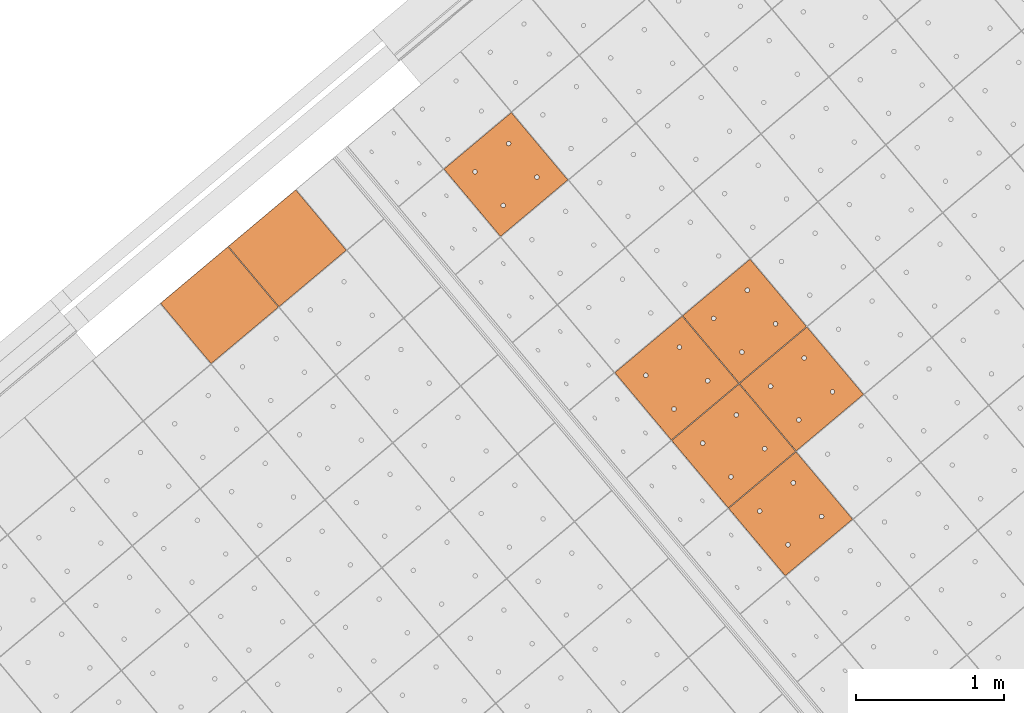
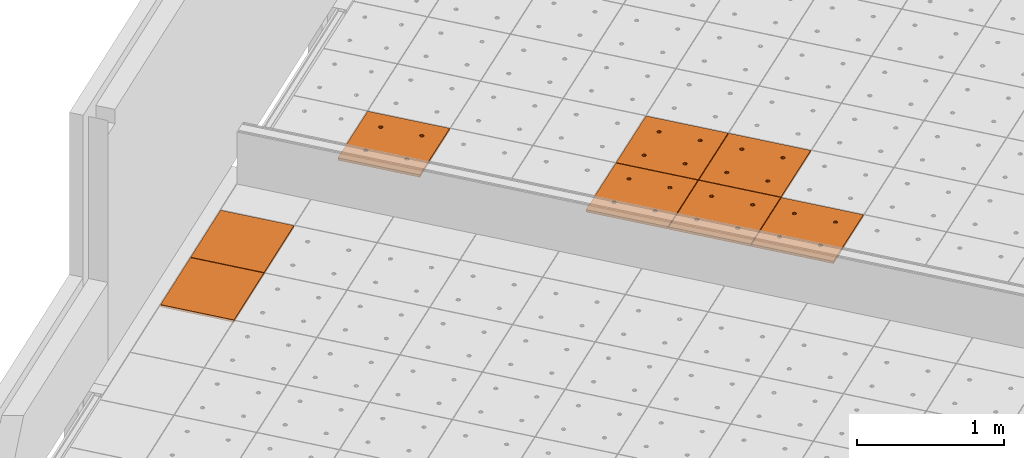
# One storey, part 160 of 338: 8 proxies, 2 elements without a shape of their own.
"""IFC2X3 building model written with IfcOpenShell, lengths in millimetres."""

from ifc_helpers import new_model, entity, si_unit, converted_unit, derived_unit, money_unit, direction, frame, origin_with_axes, place, context, subcontext, project, spatial, faceted_brep, source, transform, mapped, material, type_object, type_shapes, element, aggregate, save


model = new_model("IFC2X3")

# Units and contexts
model_context = context("Model", 3, precision=0.01, world=origin_with_axes(), true_north=direction((0.0, 1.0)))
plan_context = context("Plan", 3, precision=0.01, world=origin_with_axes(), true_north=direction((0.0, 1.0)))
body_context = subcontext(model_context, "Body", "Model", "MODEL_VIEW")
ifc_project = project(units=[si_unit("LENGTHUNIT", "METRE", prefix="MILLI"), si_unit("AREAUNIT", "SQUARE_METRE"), si_unit("VOLUMEUNIT", "CUBIC_METRE"), converted_unit("PLANEANGLEUNIT", "DEGREE", entity("IfcPlaneAngleMeasure", 0.0174532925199), si_unit("PLANEANGLEUNIT", "RADIAN"), dimensions=[0, 0, 0, 0, 0, 0, 0]), money_unit("EUR"), converted_unit("TIMEUNIT", "Year", entity("IfcTimeMeasure", 31556926.0), si_unit("TIMEUNIT", "SECOND"), dimensions=[0, 0, 1, 0, 0, 0, 0]), si_unit("MASSUNIT", "GRAM", prefix="KILO"), si_unit("THERMODYNAMICTEMPERATUREUNIT", "DEGREE_CELSIUS"), si_unit("LUMINOUSINTENSITYUNIT", "LUMEN"), si_unit("ENERGYUNIT", "JOULE", prefix="MEGA"), derived_unit("THERMALCONDUCTANCEUNIT", [(si_unit("POWERUNIT", "WATT"), 1), (si_unit("LENGTHUNIT", "METRE"), -1), (si_unit("THERMODYNAMICTEMPERATUREUNIT", "KELVIN"), -1)]), derived_unit("SPECIFICHEATCAPACITYUNIT", [(si_unit("ENERGYUNIT", "JOULE"), 1), (si_unit("MASSUNIT", "GRAM", prefix="KILO"), -1), (si_unit("THERMODYNAMICTEMPERATUREUNIT", "KELVIN"), -1)]), derived_unit("MASSDENSITYUNIT", [(si_unit("MASSUNIT", "GRAM", prefix="KILO"), 1), (si_unit("VOLUMEUNIT", "CUBIC_METRE"), -1)])], contexts=[model_context, plan_context])

# Site, building, storey
site_placement = place(None, origin_with_axes())
site = spatial("IfcSite", under=ifc_project, at=site_placement, Name="Fortuinstraat Woensdrecht", CompositionType="ELEMENT")
building_placement = place(site_placement, origin_with_axes())
building = spatial("IfcBuilding", under=site, at=building_placement, Name="IKC Fortuna", CompositionType="ELEMENT")
storey_placement = place(building_placement, origin_with_axes())
storey = spatial("IfcBuildingStorey", under=building, at=storey_placement, Name="00 begane grond", CompositionType="ELEMENT", Elevation=0.0)

# Covering, proxies
covering_type = type_object("IfcCoveringType", Name="Curtain Wall Type", PredefinedType="CEILING")
covering_1_placement = place(storey_placement, frame((9775.85169731, -1002.28242867, 4660.0), z_axis=(0.0, 0.0, 1.0), x_axis=(1.0, 0.0, 0.0)))
covering_1 = element("IfcCovering", 1, at=covering_1_placement, inside=storey, type_object=covering_type, Name="45_Plafondafwerking_P01", PredefinedType="CEILING")
ifc_material = material(Name="Gipsplaat")
building_element_proxy_type_1 = type_object("IfcBuildingElementProxyType", Name="600 x 538 x 20", PredefinedType="NOTDEFINED")
shared_shape_1 = source(origin_with_axes(), body_context, "Body", "Brep", [
    faceted_brep([(2.50000143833, 64.9091281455, -10.0), (597.499987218, 64.9091323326, -10.0), (597.499987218, 64.9091323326, 10.0), (2.50000143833, 64.9091281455, 10.0), (2.49999424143, 597.500000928, -10.0), (597.500006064, 597.499998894, -10.0), (597.500006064, 597.499998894, 10.0), (2.49999424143, 597.500000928, 10.0)], [[[0, 1, 2, 3]], [[0, 4, 5, 1]], [[1, 5, 6, 2]], [[3, 2, 6, 7]], [[4, 0, 3, 7]], [[5, 4, 7, 6]]]),
])
type_shapes(building_element_proxy_type_1, [shared_shape_1])
proxy_1_placement = place(covering_1_placement, frame((-4681.96817474, 4646.31550231, 0.0), z_axis=(0.0, 0.0, 1.0), x_axis=(1.0, 0.0, 0.0)))
proxy_1 = element("IfcBuildingElementProxy", 2, at=proxy_1_placement, type_object=building_element_proxy_type_1, material=ifc_material, Name="__600x636 Rockfon Krios", context=body_context, shape_type="MappedRepresentation", body=[
    mapped(shared_shape_1, transform((16.9190277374, 446.553705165, 0.0), x_axis=(-0.766044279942, -0.642787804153, 0.0), y_axis=(0.642787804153, -0.766044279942, 0.0), z_axis=(0.0, 0.0, 1.0))),
])
proxy_2_placement = place(covering_1_placement, frame((-4222.34160678, 5031.9881848, 0.0), z_axis=(0.0, 0.0, 1.0), x_axis=(1.0, 0.0, 0.0)))
proxy_2 = element("IfcBuildingElementProxy", 3, at=proxy_2_placement, type_object=building_element_proxy_type_1, material=ifc_material, Name="__600x690 Rockfon Krios", context=body_context, shape_type="MappedRepresentation", body=[
    mapped(shared_shape_1, transform((16.9190277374, 446.553705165, 0.0), x_axis=(-0.766044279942, -0.642787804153, 0.0), y_axis=(0.642787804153, -0.766044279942, 0.0), z_axis=(0.0, 0.0, 1.0))),
])
aggregate(covering_1, [proxy_1, proxy_2])

covering_2_placement = place(storey_placement, frame((15863.124366, 4456.31398675, 4619.99995334), z_axis=(0.0, 0.0, 1.0), x_axis=(1.0, 0.0, 0.0)))
covering_2 = element("IfcCovering", 4, at=covering_2_placement, inside=storey, type_object=covering_type, Name="45_Plafondafwerking_P01", PredefinedType="CEILING")
building_element_proxy_type_2 = type_object("IfcBuildingElementProxyType", Name="Main Panel 600 x 600 x 20", PredefinedType="NOTDEFINED")
shared_shape_2 = source(origin_with_axes(), body_context, "Body", "Brep", [
    faceted_brep([(2.50000262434, 2.50000269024, -10.0), (299.999999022, 2.50000269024, -10.0), (299.999999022, 2.50000269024, 10.0), (2.50000262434, 2.50000269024, 10.0), (2.50000262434, 300.000003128, -10.0), (2.50000262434, 597.500003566, -10.0), (299.999999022, 597.500003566, -10.0), (597.499995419, 597.500003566, -10.0), (597.499995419, 300.000003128, -10.0), (597.499995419, 2.50000269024, -10.0), (166.250000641, 450.062333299, -10.0), (165.794233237, 452.647118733, -10.0), (164.896546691, 455.113492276, -10.0), (163.584216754, 457.386514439, -10.0), (161.897117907, 459.397120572, -10.0), (159.886511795, 461.084219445, -10.0), (157.613489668, 462.396549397, -10.0), (155.147116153, 463.294235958, -10.0), (152.56233076, 463.750003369, -10.0), (149.937670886, 463.750003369, -10.0), (147.352885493, 463.294235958, -10.0), (144.886511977, 462.396549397, -10.0), (142.61348985, 461.084219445, -10.0), (140.602883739, 459.397120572, -10.0), (138.915784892, 457.386514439, -10.0), (137.603454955, 455.113492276, -10.0), (136.705768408, 452.647118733, -10.0), (136.250001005, 450.062333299, -10.0), (136.250001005, 448.750003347, -10.0), (136.250001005, 447.437673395, -10.0), (136.705768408, 444.852887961, -10.0), (137.603454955, 442.386514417, -10.0), (138.915784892, 440.113492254, -10.0), (140.602883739, 438.102886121, -10.0), (142.61348985, 436.415787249, -10.0), (144.886511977, 435.103457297, -10.0), (147.352885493, 434.205770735, -10.0), (149.937670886, 433.750003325, -10.0), (152.56233076, 433.750003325, -10.0), (155.147116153, 434.205770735, -10.0), (157.613489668, 435.103457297, -10.0), (159.886511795, 436.415787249, -10.0), (161.897117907, 438.102886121, -10.0), (163.584216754, 440.113492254, -10.0), (164.896546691, 442.386514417, -10.0), (165.794233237, 444.852887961, -10.0), (166.250000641, 447.437673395, -10.0), (463.749997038, 450.062333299, -10.0), (463.294229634, 452.647118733, -10.0), (462.396543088, 455.113492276, -10.0), (461.084213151, 457.386514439, -10.0), (459.397114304, 459.397120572, -10.0), (457.386508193, 461.084219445, -10.0), (455.113486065, 462.396549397, -10.0), (452.64711255, 463.294235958, -10.0), (450.062327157, 463.750003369, -10.0), (447.437667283, 463.750003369, -10.0), (444.85288189, 463.294235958, -10.0), (442.386508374, 462.396549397, -10.0), (440.113486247, 461.084219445, -10.0), (438.102880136, 459.397120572, -10.0), (436.415781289, 457.386514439, -10.0), (435.103451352, 455.113492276, -10.0), (434.205764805, 452.647118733, -10.0), (433.749997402, 450.062333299, -10.0), (433.749997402, 448.750003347, -10.0), (433.749997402, 447.437673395, -10.0), (434.205764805, 444.852887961, -10.0), (435.103451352, 442.386514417, -10.0), (436.415781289, 440.113492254, -10.0), (438.102880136, 438.102886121, -10.0), (440.113486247, 436.415787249, -10.0), (442.386508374, 435.103457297, -10.0), (444.85288189, 434.205770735, -10.0), (447.437667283, 433.750003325, -10.0), (450.062327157, 433.750003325, -10.0), (452.64711255, 434.205770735, -10.0), (455.113486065, 435.103457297, -10.0), (457.386508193, 436.415787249, -10.0), (459.397114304, 438.102886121, -10.0), (461.084213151, 440.113492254, -10.0), (462.396543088, 442.386514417, -10.0), (463.294229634, 444.852887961, -10.0), (463.749997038, 447.437673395, -10.0), (463.749997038, 152.562332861, -10.0), (463.294229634, 155.147118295, -10.0), (462.396543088, 157.613491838, -10.0), (461.084213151, 159.886514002, -10.0), (459.397114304, 161.897120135, -10.0), (457.386508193, 163.584219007, -10.0), (455.113486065, 164.896548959, -10.0), (452.64711255, 165.79423552, -10.0), (450.062327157, 166.250002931, -10.0), (447.437667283, 166.250002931, -10.0), (444.85288189, 165.79423552, -10.0), (442.386508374, 164.896548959, -10.0), (440.113486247, 163.584219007, -10.0), (438.102880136, 161.897120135, -10.0), (436.415781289, 159.886514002, -10.0), (435.103451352, 157.613491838, -10.0), (434.205764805, 155.147118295, -10.0), (433.749997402, 152.562332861, -10.0), (433.749997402, 151.250002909, -10.0), (433.749997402, 149.937672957, -10.0), (434.205764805, 147.352887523, -10.0), (435.103451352, 144.88651398, -10.0), (436.415781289, 142.613491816, -10.0), (438.102880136, 140.602885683, -10.0), (440.113486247, 138.915786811, -10.0), (442.386508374, 137.603456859, -10.0), (444.85288189, 136.705770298, -10.0), (447.437667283, 136.250002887, -10.0), (450.062327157, 136.250002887, -10.0), (452.64711255, 136.705770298, -10.0), (455.113486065, 137.603456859, -10.0), (457.386508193, 138.915786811, -10.0), (459.397114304, 140.602885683, -10.0), (461.084213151, 142.613491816, -10.0), (462.396543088, 144.88651398, -10.0), (463.294229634, 147.352887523, -10.0), (463.749997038, 149.937672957, -10.0), (166.250000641, 152.562332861, -10.0), (165.794233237, 155.147118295, -10.0), (164.896546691, 157.613491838, -10.0), (163.584216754, 159.886514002, -10.0), (161.897117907, 161.897120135, -10.0), (159.886511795, 163.584219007, -10.0), (157.613489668, 164.896548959, -10.0), (155.147116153, 165.79423552, -10.0), (152.56233076, 166.250002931, -10.0), (149.937670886, 166.250002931, -10.0), (147.352885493, 165.79423552, -10.0), (144.886511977, 164.896548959, -10.0), (142.61348985, 163.584219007, -10.0), (140.602883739, 161.897120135, -10.0), (138.915784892, 159.886514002, -10.0), (137.603454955, 157.613491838, -10.0), (136.705768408, 155.147118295, -10.0), (136.250001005, 152.562332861, -10.0), (136.250001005, 151.250002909, -10.0), (136.250001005, 149.937672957, -10.0), (136.705768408, 147.352887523, -10.0), (137.603454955, 144.88651398, -10.0), (138.915784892, 142.613491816, -10.0), (140.602883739, 140.602885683, -10.0), (142.61348985, 138.915786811, -10.0), (144.886511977, 137.603456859, -10.0), (147.352885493, 136.705770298, -10.0), (149.937670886, 136.250002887, -10.0), (152.56233076, 136.250002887, -10.0), (155.147116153, 136.705770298, -10.0), (157.613489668, 137.603456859, -10.0), (159.886511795, 138.915786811, -10.0), (161.897117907, 140.602885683, -10.0), (163.584216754, 142.613491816, -10.0), (164.896546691, 144.88651398, -10.0), (165.794233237, 147.352887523, -10.0), (166.250000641, 149.937672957, -10.0), (597.499995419, 2.50000269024, 10.0), (597.499995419, 300.000003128, 10.0), (597.499995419, 597.500003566, 10.0), (299.999999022, 597.500003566, 10.0), (2.50000262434, 597.500003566, 10.0), (2.50000262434, 300.000003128, 10.0), (166.250000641, 450.062333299, 10.0), (166.250000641, 447.437673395, 10.0), (165.794233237, 444.852887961, 10.0), (164.896546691, 442.386514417, 10.0), (163.584216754, 440.113492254, 10.0), (161.897117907, 438.102886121, 10.0), (159.886511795, 436.415787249, 10.0), (157.613489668, 435.103457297, 10.0), (155.147116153, 434.205770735, 10.0), (152.56233076, 433.750003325, 10.0), (149.937670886, 433.750003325, 10.0), (147.352885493, 434.205770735, 10.0), (144.886511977, 435.103457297, 10.0), (142.61348985, 436.415787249, 10.0), (140.602883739, 438.102886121, 10.0), (138.915784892, 440.113492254, 10.0), (137.603454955, 442.386514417, 10.0), (136.705768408, 444.852887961, 10.0), (136.250001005, 447.437673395, 10.0), (136.250001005, 448.750003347, 10.0), (136.250001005, 450.062333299, 10.0), (136.705768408, 452.647118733, 10.0), (137.603454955, 455.113492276, 10.0), (138.915784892, 457.386514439, 10.0), (140.602883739, 459.397120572, 10.0), (142.61348985, 461.084219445, 10.0), (144.886511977, 462.396549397, 10.0), (147.352885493, 463.294235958, 10.0), (149.937670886, 463.750003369, 10.0), (152.56233076, 463.750003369, 10.0), (155.147116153, 463.294235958, 10.0), (157.613489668, 462.396549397, 10.0), (159.886511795, 461.084219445, 10.0), (161.897117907, 459.397120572, 10.0), (163.584216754, 457.386514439, 10.0), (164.896546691, 455.113492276, 10.0), (165.794233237, 452.647118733, 10.0), (463.749997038, 450.062333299, 10.0), (463.749997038, 447.437673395, 10.0), (463.294229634, 444.852887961, 10.0), (462.396543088, 442.386514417, 10.0), (461.084213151, 440.113492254, 10.0), (459.397114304, 438.102886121, 10.0), (457.386508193, 436.415787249, 10.0), (455.113486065, 435.103457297, 10.0), (452.64711255, 434.205770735, 10.0), (450.062327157, 433.750003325, 10.0), (447.437667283, 433.750003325, 10.0), (444.85288189, 434.205770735, 10.0), (442.386508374, 435.103457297, 10.0), (440.113486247, 436.415787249, 10.0), (438.102880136, 438.102886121, 10.0), (436.415781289, 440.113492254, 10.0), (435.103451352, 442.386514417, 10.0), (434.205764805, 444.852887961, 10.0), (433.749997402, 447.437673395, 10.0), (433.749997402, 448.750003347, 10.0), (433.749997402, 450.062333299, 10.0), (434.205764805, 452.647118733, 10.0), (435.103451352, 455.113492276, 10.0), (436.415781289, 457.386514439, 10.0), (438.102880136, 459.397120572, 10.0), (440.113486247, 461.084219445, 10.0), (442.386508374, 462.396549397, 10.0), (444.85288189, 463.294235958, 10.0), (447.437667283, 463.750003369, 10.0), (450.062327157, 463.750003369, 10.0), (452.64711255, 463.294235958, 10.0), (455.113486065, 462.396549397, 10.0), (457.386508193, 461.084219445, 10.0), (459.397114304, 459.397120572, 10.0), (461.084213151, 457.386514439, 10.0), (462.396543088, 455.113492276, 10.0), (463.294229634, 452.647118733, 10.0), (463.749997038, 152.562332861, 10.0), (463.749997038, 149.937672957, 10.0), (463.294229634, 147.352887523, 10.0), (462.396543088, 144.88651398, 10.0), (461.084213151, 142.613491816, 10.0), (459.397114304, 140.602885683, 10.0), (457.386508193, 138.915786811, 10.0), (455.113486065, 137.603456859, 10.0), (452.64711255, 136.705770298, 10.0), (450.062327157, 136.250002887, 10.0), (447.437667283, 136.250002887, 10.0), (444.85288189, 136.705770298, 10.0), (442.386508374, 137.603456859, 10.0), (440.113486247, 138.915786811, 10.0), (438.102880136, 140.602885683, 10.0), (436.415781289, 142.613491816, 10.0), (435.103451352, 144.88651398, 10.0), (434.205764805, 147.352887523, 10.0), (433.749997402, 149.937672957, 10.0), (433.749997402, 151.250002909, 10.0), (433.749997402, 152.562332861, 10.0), (434.205764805, 155.147118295, 10.0), (435.103451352, 157.613491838, 10.0), (436.415781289, 159.886514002, 10.0), (438.102880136, 161.897120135, 10.0), (440.113486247, 163.584219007, 10.0), (442.386508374, 164.896548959, 10.0), (444.85288189, 165.79423552, 10.0), (447.437667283, 166.250002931, 10.0), (450.062327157, 166.250002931, 10.0), (452.64711255, 165.79423552, 10.0), (455.113486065, 164.896548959, 10.0), (457.386508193, 163.584219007, 10.0), (459.397114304, 161.897120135, 10.0), (461.084213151, 159.886514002, 10.0), (462.396543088, 157.613491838, 10.0), (463.294229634, 155.147118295, 10.0), (166.250000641, 152.562332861, 10.0), (166.250000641, 149.937672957, 10.0), (165.794233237, 147.352887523, 10.0), (164.896546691, 144.88651398, 10.0), (163.584216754, 142.613491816, 10.0), (161.897117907, 140.602885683, 10.0), (159.886511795, 138.915786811, 10.0), (157.613489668, 137.603456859, 10.0), (155.147116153, 136.705770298, 10.0), (152.56233076, 136.250002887, 10.0), (149.937670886, 136.250002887, 10.0), (147.352885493, 136.705770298, 10.0), (144.886511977, 137.603456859, 10.0), (142.61348985, 138.915786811, 10.0), (140.602883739, 140.602885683, 10.0), (138.915784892, 142.613491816, 10.0), (137.603454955, 144.88651398, 10.0), (136.705768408, 147.352887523, 10.0), (136.250001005, 149.937672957, 10.0), (136.250001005, 151.250002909, 10.0), (136.250001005, 152.562332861, 10.0), (136.705768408, 155.147118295, 10.0), (137.603454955, 157.613491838, 10.0), (138.915784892, 159.886514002, 10.0), (140.602883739, 161.897120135, 10.0), (142.61348985, 163.584219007, 10.0), (144.886511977, 164.896548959, 10.0), (147.352885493, 165.79423552, 10.0), (149.937670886, 166.250002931, 10.0), (152.56233076, 166.250002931, 10.0), (155.147116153, 165.79423552, 10.0), (157.613489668, 164.896548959, 10.0), (159.886511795, 163.584219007, 10.0), (161.897117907, 161.897120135, 10.0), (163.584216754, 159.886514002, 10.0), (164.896546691, 157.613491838, 10.0), (165.794233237, 155.147118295, 10.0)], [[[0, 1, 2, 3]], [[0, 4, 5, 6, 7, 8, 9, 1], [10, 11, 12, 13, 14, 15, 16, 17, 18, 19, 20, 21, 22, 23, 24, 25, 26, 27, 28, 29, 30, 31, 32, 33, 34, 35, 36, 37, 38, 39, 40, 41, 42, 43, 44, 45, 46], [47, 48, 49, 50, 51, 52, 53, 54, 55, 56, 57, 58, 59, 60, 61, 62, 63, 64, 65, 66, 67, 68, 69, 70, 71, 72, 73, 74, 75, 76, 77, 78, 79, 80, 81, 82, 83], [84, 85, 86, 87, 88, 89, 90, 91, 92, 93, 94, 95, 96, 97, 98, 99, 100, 101, 102, 103, 104, 105, 106, 107, 108, 109, 110, 111, 112, 113, 114, 115, 116, 117, 118, 119, 120], [121, 122, 123, 124, 125, 126, 127, 128, 129, 130, 131, 132, 133, 134, 135, 136, 137, 138, 139, 140, 141, 142, 143, 144, 145, 146, 147, 148, 149, 150, 151, 152, 153, 154, 155, 156, 157]], [[1, 9, 158, 2]], [[3, 2, 158, 159, 160, 161, 162, 163], [164, 165, 166, 167, 168, 169, 170, 171, 172, 173, 174, 175, 176, 177, 178, 179, 180, 181, 182, 183, 184, 185, 186, 187, 188, 189, 190, 191, 192, 193, 194, 195, 196, 197, 198, 199, 200], [201, 202, 203, 204, 205, 206, 207, 208, 209, 210, 211, 212, 213, 214, 215, 216, 217, 218, 219, 220, 221, 222, 223, 224, 225, 226, 227, 228, 229, 230, 231, 232, 233, 234, 235, 236, 237], [238, 239, 240, 241, 242, 243, 244, 245, 246, 247, 248, 249, 250, 251, 252, 253, 254, 255, 256, 257, 258, 259, 260, 261, 262, 263, 264, 265, 266, 267, 268, 269, 270, 271, 272, 273, 274], [275, 276, 277, 278, 279, 280, 281, 282, 283, 284, 285, 286, 287, 288, 289, 290, 291, 292, 293, 294, 295, 296, 297, 298, 299, 300, 301, 302, 303, 304, 305, 306, 307, 308, 309, 310, 311]], [[4, 0, 3, 163]], [[5, 4, 163, 162]], [[6, 5, 162, 161]], [[7, 6, 161, 160]], [[8, 7, 160, 159]], [[9, 8, 159, 158]], [[11, 10, 164, 200]], [[12, 11, 200, 199]], [[13, 12, 199, 198]], [[14, 13, 198, 197]], [[15, 14, 197, 196]], [[16, 15, 196, 195]], [[17, 16, 195, 194]], [[18, 17, 194, 193]], [[19, 18, 193, 192]], [[20, 19, 192, 191]], [[21, 20, 191, 190]], [[22, 21, 190, 189]], [[23, 22, 189, 188]], [[24, 23, 188, 187]], [[25, 24, 187, 186]], [[26, 25, 186, 185]], [[27, 26, 185, 184]], [[28, 27, 184, 183]], [[29, 28, 183, 182]], [[30, 29, 182, 181]], [[31, 30, 181, 180]], [[32, 31, 180, 179]], [[33, 32, 179, 178]], [[34, 33, 178, 177]], [[35, 34, 177, 176]], [[36, 35, 176, 175]], [[37, 36, 175, 174]], [[38, 37, 174, 173]], [[39, 38, 173, 172]], [[40, 39, 172, 171]], [[41, 40, 171, 170]], [[42, 41, 170, 169]], [[43, 42, 169, 168]], [[44, 43, 168, 167]], [[45, 44, 167, 166]], [[46, 45, 166, 165]], [[10, 46, 165, 164]], [[48, 47, 201, 237]], [[49, 48, 237, 236]], [[50, 49, 236, 235]], [[51, 50, 235, 234]], [[52, 51, 234, 233]], [[53, 52, 233, 232]], [[54, 53, 232, 231]], [[55, 54, 231, 230]], [[56, 55, 230, 229]], [[57, 56, 229, 228]], [[58, 57, 228, 227]], [[59, 58, 227, 226]], [[60, 59, 226, 225]], [[61, 60, 225, 224]], [[62, 61, 224, 223]], [[63, 62, 223, 222]], [[64, 63, 222, 221]], [[65, 64, 221, 220]], [[66, 65, 220, 219]], [[67, 66, 219, 218]], [[68, 67, 218, 217]], [[69, 68, 217, 216]], [[70, 69, 216, 215]], [[71, 70, 215, 214]], [[72, 71, 214, 213]], [[73, 72, 213, 212]], [[74, 73, 212, 211]], [[75, 74, 211, 210]], [[76, 75, 210, 209]], [[77, 76, 209, 208]], [[78, 77, 208, 207]], [[79, 78, 207, 206]], [[80, 79, 206, 205]], [[81, 80, 205, 204]], [[82, 81, 204, 203]], [[83, 82, 203, 202]], [[47, 83, 202, 201]], [[85, 84, 238, 274]], [[86, 85, 274, 273]], [[87, 86, 273, 272]], [[88, 87, 272, 271]], [[89, 88, 271, 270]], [[90, 89, 270, 269]], [[91, 90, 269, 268]], [[92, 91, 268, 267]], [[93, 92, 267, 266]], [[94, 93, 266, 265]], [[95, 94, 265, 264]], [[96, 95, 264, 263]], [[97, 96, 263, 262]], [[98, 97, 262, 261]], [[99, 98, 261, 260]], [[100, 99, 260, 259]], [[101, 100, 259, 258]], [[102, 101, 258, 257]], [[103, 102, 257, 256]], [[104, 103, 256, 255]], [[105, 104, 255, 254]], [[106, 105, 254, 253]], [[107, 106, 253, 252]], [[108, 107, 252, 251]], [[109, 108, 251, 250]], [[110, 109, 250, 249]], [[111, 110, 249, 248]], [[112, 111, 248, 247]], [[113, 112, 247, 246]], [[114, 113, 246, 245]], [[115, 114, 245, 244]], [[116, 115, 244, 243]], [[117, 116, 243, 242]], [[118, 117, 242, 241]], [[119, 118, 241, 240]], [[120, 119, 240, 239]], [[84, 120, 239, 238]], [[122, 121, 275, 311]], [[123, 122, 311, 310]], [[124, 123, 310, 309]], [[125, 124, 309, 308]], [[126, 125, 308, 307]], [[127, 126, 307, 306]], [[128, 127, 306, 305]], [[129, 128, 305, 304]], [[130, 129, 304, 303]], [[131, 130, 303, 302]], [[132, 131, 302, 301]], [[133, 132, 301, 300]], [[134, 133, 300, 299]], [[135, 134, 299, 298]], [[136, 135, 298, 297]], [[137, 136, 297, 296]], [[138, 137, 296, 295]], [[139, 138, 295, 294]], [[140, 139, 294, 293]], [[141, 140, 293, 292]], [[142, 141, 292, 291]], [[143, 142, 291, 290]], [[144, 143, 290, 289]], [[145, 144, 289, 288]], [[146, 145, 288, 287]], [[147, 146, 287, 286]], [[148, 147, 286, 285]], [[149, 148, 285, 284]], [[150, 149, 284, 283]], [[151, 150, 283, 282]], [[152, 151, 282, 281]], [[153, 152, 281, 280]], [[154, 153, 280, 279]], [[155, 154, 279, 278]], [[156, 155, 278, 277]], [[157, 156, 277, 276]], [[121, 157, 276, 275]]]),
])
type_shapes(building_element_proxy_type_2, [shared_shape_2])
proxy_3_placement = place(covering_2_placement, frame((-8829.21955638, 73.0775566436, 36.2177810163), z_axis=(0.0, 0.0, 1.0), x_axis=(0.642787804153, -0.766044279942, 0.0)))
proxy_3 = element("IfcBuildingElementProxy", 5, at=proxy_3_placement, type_object=building_element_proxy_type_2, material=ifc_material, Name="__600x955 Rockfon Krios", context=body_context, shape_type="MappedRepresentation", body=[
    mapped(shared_shape_2, transform((-300.0, 299.995617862, -1.62150043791), x_axis=(0.0, -0.999985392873, 0.00540500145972), y_axis=(1.0, 0.0, 0.0), z_axis=(0.0, 0.00540500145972, 0.999985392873))),
])
proxy_4_placement = place(covering_2_placement, frame((-7212.58165477, -920.135098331, 32.9747801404), z_axis=(0.0, 0.0, 1.0), x_axis=(0.642787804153, -0.766044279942, 0.0)))
proxy_4 = element("IfcBuildingElementProxy", 6, at=proxy_4_placement, type_object=building_element_proxy_type_2, material=ifc_material, Name="__600x993 Rockfon Krios", context=body_context, shape_type="MappedRepresentation", body=[
    mapped(shared_shape_2, transform((-300.0, 299.995617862, -1.62150043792), x_axis=(0.0, -0.999985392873, 0.00540500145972), y_axis=(1.0, 0.0, 0.0), z_axis=(0.0, 0.00540500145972, 0.999985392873))),
])
proxy_5_placement = place(covering_2_placement, frame((-7672.20150891, -1305.80214725, 36.2177810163), z_axis=(0.0, 0.0, 1.0), x_axis=(0.642787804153, -0.766044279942, 0.0)))
proxy_5 = element("IfcBuildingElementProxy", 7, at=proxy_5_placement, type_object=building_element_proxy_type_2, material=ifc_material, Name="__600x994 Rockfon Krios", context=body_context, shape_type="MappedRepresentation", body=[
    mapped(shared_shape_2, transform((-300.0, 299.995617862, -1.62150043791), x_axis=(0.0, -0.999985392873, 0.00540500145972), y_axis=(1.0, 0.0, 0.0), z_axis=(0.0, 0.00540500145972, 0.999985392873))),
])
proxy_6_placement = place(covering_2_placement, frame((-6826.90897228, -1379.7616663, 32.9747801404), z_axis=(0.0, 0.0, 1.0), x_axis=(0.642787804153, -0.766044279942, 0.0)))
proxy_6 = element("IfcBuildingElementProxy", 8, at=proxy_6_placement, type_object=building_element_proxy_type_2, material=ifc_material, Name="__600x006 Rockfon Krios", context=body_context, shape_type="MappedRepresentation", body=[
    mapped(shared_shape_2, transform((-300.0, 299.995617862, -1.62150043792), x_axis=(0.0, -0.999985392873, 0.00540500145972), y_axis=(1.0, 0.0, 0.0), z_axis=(0.0, 0.00540500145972, 0.999985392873))),
])
proxy_7_placement = place(covering_2_placement, frame((-7286.52882642, -1765.42871522, 36.2177810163), z_axis=(0.0, 0.0, 1.0), x_axis=(0.642787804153, -0.766044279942, 0.0)))
proxy_7 = element("IfcBuildingElementProxy", 9, at=proxy_7_placement, type_object=building_element_proxy_type_2, material=ifc_material, Name="__600x007 Rockfon Krios", context=body_context, shape_type="MappedRepresentation", body=[
    mapped(shared_shape_2, transform((-300.0, 299.995617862, -1.62150043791), x_axis=(0.0, -0.999985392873, 0.00540500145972), y_axis=(1.0, 0.0, 0.0), z_axis=(0.0, 0.00540500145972, 0.999985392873))),
])
proxy_8_placement = place(covering_2_placement, frame((-6900.85614393, -2225.05528318, 36.2177810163), z_axis=(0.0, 0.0, 1.0), x_axis=(0.642787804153, -0.766044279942, 0.0)))
proxy_8 = element("IfcBuildingElementProxy", 10, at=proxy_8_placement, type_object=building_element_proxy_type_2, material=ifc_material, Name="__600x020 Rockfon Krios", context=body_context, shape_type="MappedRepresentation", body=[
    mapped(shared_shape_2, transform((-300.0, 299.995617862, -1.62150043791), x_axis=(0.0, -0.999985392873, 0.00540500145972), y_axis=(1.0, 0.0, 0.0), z_axis=(0.0, 0.00540500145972, 0.999985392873))),
])
aggregate(covering_2, [proxy_3, proxy_4, proxy_5, proxy_6, proxy_7, proxy_8])

save(model, "model.ifc")
